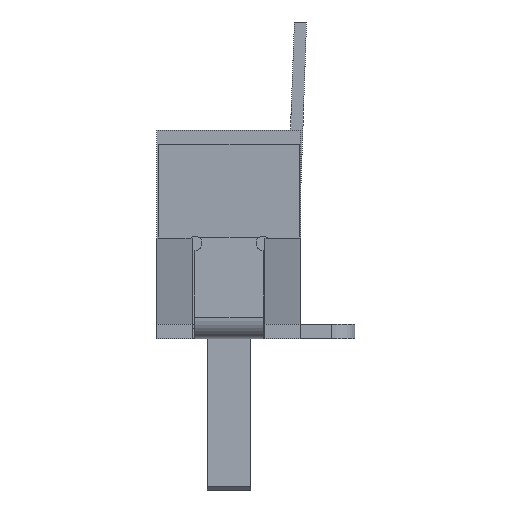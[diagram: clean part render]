
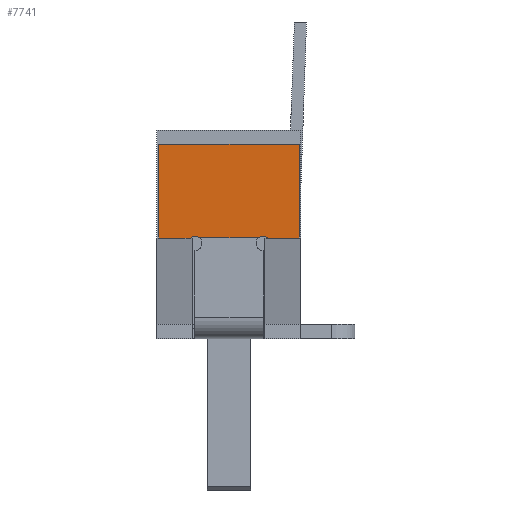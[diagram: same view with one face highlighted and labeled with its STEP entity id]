
A CAD part, left-side view. The second image highlights one B-rep face of the part: STEP entity #7741.
In plain terms, the highlighted planar face has unit normal (-0.999, 0, -0.038).
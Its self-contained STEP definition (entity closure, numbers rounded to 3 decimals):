
#101 = VERTEX_POINT ( 'NONE', #2268 ) ;
#152 = PLANE ( 'NONE',  #2821 ) ;
#156 = VECTOR ( 'NONE', #4239, 1000. ) ;
#352 = CARTESIAN_POINT ( 'NONE',  ( -0.251, 1.45, -1.475 ) ) ;
#440 = ORIENTED_EDGE ( 'NONE', *, *, #4506, .T. ) ;
#456 = EDGE_CURVE ( 'NONE', #4101, #6715, #6266, .T. ) ;
#482 = EDGE_LOOP ( 'NONE', ( #440, #7684, #6637, #4002, #5014, #6953, #712, #2919, #7945, #1366 ) ) ;
#712 = ORIENTED_EDGE ( 'NONE', *, *, #7112, .T. ) ;
#726 = VERTEX_POINT ( 'NONE', #2896 ) ;
#959 = VERTEX_POINT ( 'NONE', #5314 ) ;
#1110 = CARTESIAN_POINT ( 'NONE',  ( -0.251, 0.525, -1.475 ) ) ;
#1151 =( BOUNDED_CURVE ( )  B_SPLINE_CURVE ( 3, ( #7672, #352, #5292, #2747 ),
 .UNSPECIFIED., .F., .T. ) 
 B_SPLINE_CURVE_WITH_KNOTS ( ( 4, 4 ),
 ( 3.142, 3.864 ),
 .UNSPECIFIED. ) 
 CURVE ( )  GEOMETRIC_REPRESENTATION_ITEM ( )  RATIONAL_B_SPLINE_CURVE ( ( 1., 0.957, 0.957, 1. ) ) 
 REPRESENTATION_ITEM ( '' )  );
#1155 = CARTESIAN_POINT ( 'NONE',  ( -0.251, 1.523, -1.484 ) ) ;
#1202 = CARTESIAN_POINT ( 'NONE',  ( -0.25, 1.975, -1.5 ) ) ;
#1254 = DIRECTION ( 'NONE',  ( 0., 1., 0. ) ) ;
#1354 = EDGE_CURVE ( 'NONE', #3242, #4101, #2547, .T. ) ;
#1366 = ORIENTED_EDGE ( 'NONE', *, *, #6553, .T. ) ;
#1593 = CARTESIAN_POINT ( 'NONE',  ( -0.25, 0.591, -1.5 ) ) ;
#1623 = EDGE_CURVE ( 'NONE', #101, #6715, #6769, .T. ) ;
#1666 = CARTESIAN_POINT ( 'NONE',  ( -0.25, 0.025, -1.5 ) ) ;
#1677 = CARTESIAN_POINT ( 'NONE',  ( -0.251, 1.475, -1.475 ) ) ;
#1727 = DIRECTION ( 'NONE',  ( 0., -1., 0. ) ) ;
#2121 = CARTESIAN_POINT ( 'NONE',  ( -0.25, 1.475, -1.5 ) ) ;
#2253 = DIRECTION ( 'NONE',  ( 0., -1., 0. ) ) ;
#2268 = CARTESIAN_POINT ( 'NONE',  ( -0.25, 1.975, -1.5 ) ) ;
#2270 =( BOUNDED_CURVE ( )  B_SPLINE_CURVE ( 3, ( #1593, #4085, #6549, #1110 ),
 .UNSPECIFIED., .F., .T. ) 
 B_SPLINE_CURVE_WITH_KNOTS ( ( 4, 4 ),
 ( 2.419, 3.142 ),
 .UNSPECIFIED. ) 
 CURVE ( )  GEOMETRIC_REPRESENTATION_ITEM ( )  RATIONAL_B_SPLINE_CURVE ( ( 1., 0.957, 0.957, 1. ) ) 
 REPRESENTATION_ITEM ( '' )  );
#2547 = LINE ( 'NONE', #7052, #7746 ) ;
#2674 = CARTESIAN_POINT ( 'NONE',  ( -0.3, 0.025, -0.2 ) ) ;
#2747 = CARTESIAN_POINT ( 'NONE',  ( -0.25, 1.409, -1.5 ) ) ;
#2773 = CARTESIAN_POINT ( 'NONE',  ( -0.25, 1.409, -1.5 ) ) ;
#2821 = AXIS2_PLACEMENT_3D ( 'NONE', #2121, #4006, #6404 ) ;
#2881 = VERTEX_POINT ( 'NONE', #2773 ) ;
#2896 = CARTESIAN_POINT ( 'NONE',  ( -0.25, 0.591, -1.5 ) ) ;
#2919 = ORIENTED_EDGE ( 'NONE', *, *, #7535, .T. ) ;
#3008 = CARTESIAN_POINT ( 'NONE',  ( -0.251, 1.475, -1.475 ) ) ;
#3024 = EDGE_CURVE ( 'NONE', #6691, #4111, #6168, .T. ) ;
#3121 =( BOUNDED_CURVE ( )  B_SPLINE_CURVE ( 3, ( #4562, #5130, #3967, #7004 ),
 .UNSPECIFIED., .F., .T. ) 
 B_SPLINE_CURVE_WITH_KNOTS ( ( 4, 4 ),
 ( 3.142, 3.864 ),
 .UNSPECIFIED. ) 
 CURVE ( )  GEOMETRIC_REPRESENTATION_ITEM ( )  RATIONAL_B_SPLINE_CURVE ( ( 1., 0.957, 0.957, 1. ) ) 
 REPRESENTATION_ITEM ( '' )  );
#3242 = VERTEX_POINT ( 'NONE', #1666 ) ;
#3283 = DIRECTION ( 'NONE',  ( -0.038, 0., 0.999 ) ) ;
#3597 = VECTOR ( 'NONE', #1254, 1000. ) ;
#3824 = CARTESIAN_POINT ( 'NONE',  ( -0.3, 0.025, -0.2 ) ) ;
#3967 = CARTESIAN_POINT ( 'NONE',  ( -0.251, 0.477, -1.484 ) ) ;
#4002 = ORIENTED_EDGE ( 'NONE', *, *, #1623, .F. ) ;
#4006 = DIRECTION ( 'NONE',  ( -0.999, 0., -0.038 ) ) ;
#4085 = CARTESIAN_POINT ( 'NONE',  ( -0.251, 0.573, -1.484 ) ) ;
#4101 = VERTEX_POINT ( 'NONE', #2674 ) ;
#4106 = CARTESIAN_POINT ( 'NONE',  ( -0.25, 1.541, -1.5 ) ) ;
#4111 = VERTEX_POINT ( 'NONE', #3008 ) ;
#4156 = CARTESIAN_POINT ( 'NONE',  ( -0.25, 0.459, -1.5 ) ) ;
#4188 = LINE ( 'NONE', #4799, #5069 ) ;
#4239 = DIRECTION ( 'NONE',  ( 0., 1., 0. ) ) ;
#4261 = DIRECTION ( 'NONE',  ( -0.038, 0., 0.999 ) ) ;
#4506 = EDGE_CURVE ( 'NONE', #5859, #3242, #6571, .T. ) ;
#4512 = EDGE_CURVE ( 'NONE', #6691, #101, #7756, .T. ) ;
#4562 = CARTESIAN_POINT ( 'NONE',  ( -0.251, 0.525, -1.475 ) ) ;
#4656 = VECTOR ( 'NONE', #4261, 1000. ) ;
#4799 = CARTESIAN_POINT ( 'NONE',  ( -0.25, 1.409, -1.5 ) ) ;
#4952 = CARTESIAN_POINT ( 'NONE',  ( -0.25, 1.541, -1.5 ) ) ;
#5014 = ORIENTED_EDGE ( 'NONE', *, *, #4512, .F. ) ;
#5069 = VECTOR ( 'NONE', #1727, 1000. ) ;
#5130 = CARTESIAN_POINT ( 'NONE',  ( -0.251, 0.5, -1.475 ) ) ;
#5292 = CARTESIAN_POINT ( 'NONE',  ( -0.251, 1.427, -1.484 ) ) ;
#5314 = CARTESIAN_POINT ( 'NONE',  ( -0.251, 0.525, -1.475 ) ) ;
#5358 = CARTESIAN_POINT ( 'NONE',  ( -0.25, 1.541, -1.5 ) ) ;
#5859 = VERTEX_POINT ( 'NONE', #6526 ) ;
#6061 = EDGE_CURVE ( 'NONE', #726, #959, #2270, .T. ) ;
#6118 = CARTESIAN_POINT ( 'NONE',  ( -0.251, 1.5, -1.475 ) ) ;
#6168 =( BOUNDED_CURVE ( )  B_SPLINE_CURVE ( 3, ( #5358, #1155, #6118, #1677 ),
 .UNSPECIFIED., .F., .T. ) 
 B_SPLINE_CURVE_WITH_KNOTS ( ( 4, 4 ),
 ( 2.419, 3.142 ),
 .UNSPECIFIED. ) 
 CURVE ( )  GEOMETRIC_REPRESENTATION_ITEM ( )  RATIONAL_B_SPLINE_CURVE ( ( 1., 0.957, 0.957, 1. ) ) 
 REPRESENTATION_ITEM ( '' )  );
#6266 = LINE ( 'NONE', #3824, #3597 ) ;
#6404 = DIRECTION ( 'NONE',  ( -0.038, 0., 0.999 ) ) ;
#6526 = CARTESIAN_POINT ( 'NONE',  ( -0.25, 0.459, -1.5 ) ) ;
#6549 = CARTESIAN_POINT ( 'NONE',  ( -0.251, 0.55, -1.475 ) ) ;
#6553 = EDGE_CURVE ( 'NONE', #959, #5859, #3121, .T. ) ;
#6571 = LINE ( 'NONE', #4156, #6774 ) ;
#6637 = ORIENTED_EDGE ( 'NONE', *, *, #456, .T. ) ;
#6691 = VERTEX_POINT ( 'NONE', #4952 ) ;
#6715 = VERTEX_POINT ( 'NONE', #7481 ) ;
#6769 = LINE ( 'NONE', #1202, #4656 ) ;
#6774 = VECTOR ( 'NONE', #2253, 1000. ) ;
#6953 = ORIENTED_EDGE ( 'NONE', *, *, #3024, .T. ) ;
#7004 = CARTESIAN_POINT ( 'NONE',  ( -0.25, 0.459, -1.5 ) ) ;
#7052 = CARTESIAN_POINT ( 'NONE',  ( -0.25, 0.025, -1.5 ) ) ;
#7112 = EDGE_CURVE ( 'NONE', #4111, #2881, #1151, .T. ) ;
#7481 = CARTESIAN_POINT ( 'NONE',  ( -0.3, 1.975, -0.2 ) ) ;
#7535 = EDGE_CURVE ( 'NONE', #2881, #726, #4188, .T. ) ;
#7672 = CARTESIAN_POINT ( 'NONE',  ( -0.251, 1.475, -1.475 ) ) ;
#7684 = ORIENTED_EDGE ( 'NONE', *, *, #1354, .T. ) ;
#7699 = FACE_OUTER_BOUND ( 'NONE', #482, .T. ) ;
#7741 = ADVANCED_FACE ( 'NONE', ( #7699 ), #152, .T. ) ;
#7746 = VECTOR ( 'NONE', #3283, 1000. ) ;
#7756 = LINE ( 'NONE', #4106, #156 ) ;
#7945 = ORIENTED_EDGE ( 'NONE', *, *, #6061, .T. ) ;
